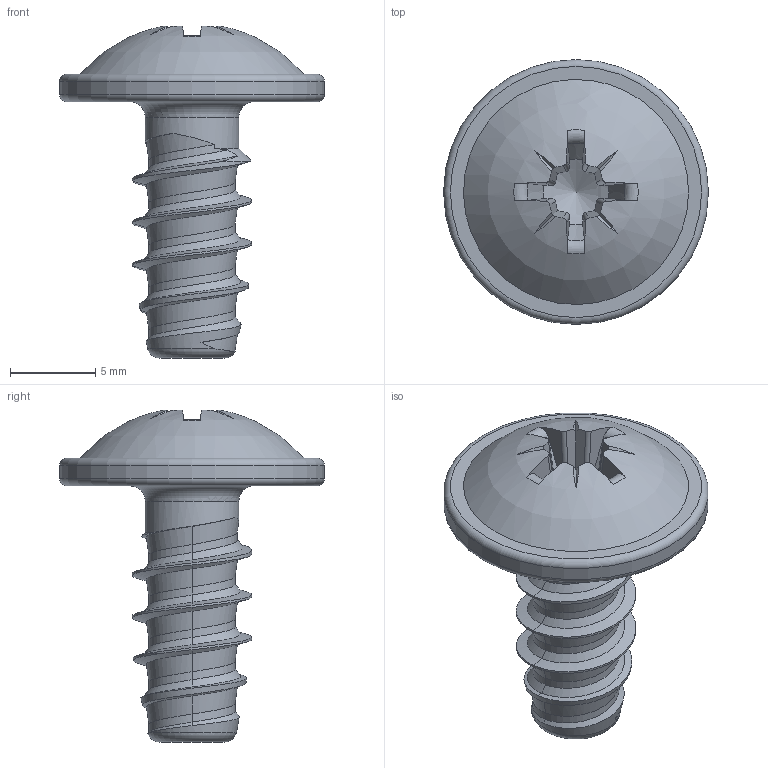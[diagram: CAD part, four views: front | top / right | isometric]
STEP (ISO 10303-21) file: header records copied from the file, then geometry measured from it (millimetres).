
FILE_DESCRIPTION(/* description */ (''),/* implementation_level */ '2;1');
FILE_NAME(/* name */ 'KN6031-STSplus-70x15-Z3.step',/* time_stamp */ '2017-10-09T17:07:50+02:00',/* author */ (''),/* organization */ (''),/* preprocessor_version */ 'ST-DEVELOPER v16',/* originating_system */ 'SIEMENS PLM Software NX 10.0',/* authorisation */ '');
FILE_SCHEMA (('AUTOMOTIVE_DESIGN { 1 0 10303 214 3 1 1 1 }'));
Length unit declared in the file: millimetre
Products named in the file (1): KN6031-STSplus-70x15-Z3
Bounding box: 15.5 x 15.5 x 19.43 mm (x, y, z)
Volume: 830.3 mm3; surface area: 839.3 mm2
Topology: 1 solids, 1 shells, 83 faces, 215 edges, 135 vertices
Faces by surface type: bspline 29, plane 27, cylinder 11, torus 8, cone 7, sphere 1
Full cylindrical faces by diameter (mm): 5.48 x1, 15.5 x1
Entity records: 4440 total; most frequent: CARTESIAN_POINT 2703, ORIENTED_EDGE 402, DIRECTION 263, EDGE_CURVE 201, VERTEX_POINT 130, AXIS2_PLACEMENT_3D 103, B_SPLINE_CURVE_WITH_KNOTS 96, EDGE_LOOP 92
